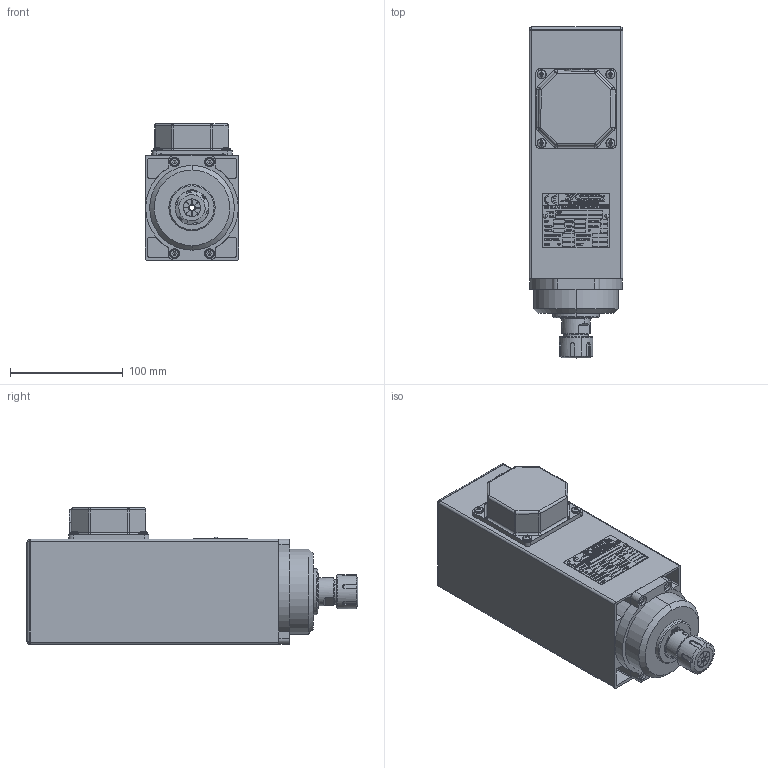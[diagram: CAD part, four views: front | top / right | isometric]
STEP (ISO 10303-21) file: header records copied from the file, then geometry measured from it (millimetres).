
FILE_DESCRIPTION (( 'STEP AP214' ), '1' );
FILE_NAME ('Teknomotor 41-47 STEP AP214.STEP', '2017-03-06T08:53:43', ( 'Alumno' ), ( '' ), 'SwSTEP 2.0', 'SolidWorks 2013', '' );
FILE_SCHEMA (( 'AUTOMOTIVE_DESIGN' ));
Length unit declared in the file: millimetre
Products named in the file (15): socket head cap screw_iso_ISO 4762 M4 x 6 --- 6N; Aro eje; Teknomotor 41-47 STEP AP214; Eje_Vìchoz¡; Acople motor 41-47; Tuerca mandril_Vìchoz¡; Etiqueta_Vìchoz¡; pan head cross recess screw_iso_ISO 7045 - M4 x 5 - Z --- 5N; Tapa trasera_Vìchoz¡; pan head cross recess screw_iso_ISO 7045 - M3 x 4 - Z --- 4N; Mandril_Vìchoz¡; groove pin 08_iso_ISO 8746-M2x3-St; Cuerpo_Vìchoz¡; Tapa terminales_Vìchoz¡; circlip for shafts normal_din_Circlip DIN 471 - 24 x 1.2
Assembly tree (24 placements, depth 2):
  Teknomotor 41-47 STEP AP214
    Cuerpo_Vìchoz¡
    Mandril_Vìchoz¡
    Tuerca mandril_Vìchoz¡
    Eje_Vìchoz¡
    Tapa terminales_Vìchoz¡
    Tapa trasera_Vìchoz¡
    Etiqueta_Vìchoz¡
    Acople motor 41-47
    Aro eje
    circlip for shafts normal_din_Circlip DIN 471 - 24 x 1.2
    groove pin 08_iso_ISO 8746-M2x3-St  x2
    pan head cross recess screw_iso_ISO 7045 - M3 x 4 - Z --- 4N  x4
    pan head cross recess screw_iso_ISO 7045 - M4 x 5 - Z --- 5N  x4
    socket head cap screw_iso_ISO 4762 M4 x 6 --- 6N  x4
Bounding box: 83 x 293.97 x 121 mm (x, y, z)
Volume: 1217273.3 mm3; surface area: 270976.9 mm2
Topology: 62 solids, 62 shells, 3118 faces, 8116 edges, 5270 vertices
Faces by surface type: plane 1962, bspline 531, cylinder 344, cone 192, torus 61, sphere 28
Entity records: 120842 total; most frequent: CARTESIAN_POINT 50284, ORIENTED_EDGE 14602, DIRECTION 10882, EDGE_CURVE 7301, VERTEX_POINT 4811, VECTOR 4570, LINE 4570, AXIS2_PLACEMENT_3D 3156
